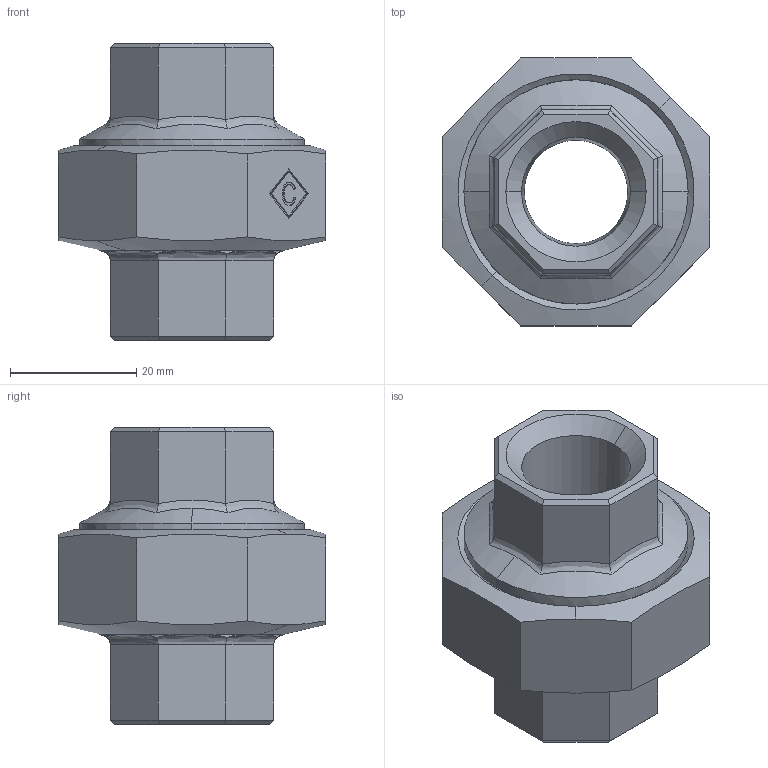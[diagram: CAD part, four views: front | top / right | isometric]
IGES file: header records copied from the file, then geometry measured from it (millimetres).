
Global section: file name: No Iges File Name specified; native system: AutoDesk Inventor R12.0; preprocessor: AutoDesk Inventor Iges Exporter R12.0; date: 20090918.091346; units: millimetre
Bounding box: 42.42 x 42.42 x 47.06 mm (x, y, z)
Volume: 28082.9 mm3; surface area: 12624.3 mm2
Topology: 1 solids, 2 shells, 130 faces, 318 edges, 198 vertices
Faces by surface type: plane 68, revolution 30, bspline 24, cylinder 6, cone 2
